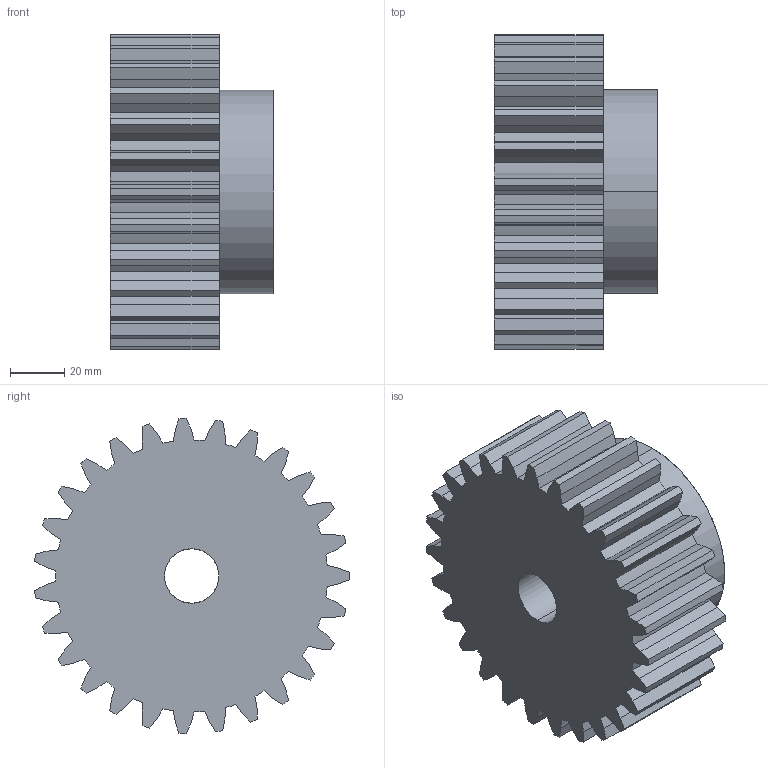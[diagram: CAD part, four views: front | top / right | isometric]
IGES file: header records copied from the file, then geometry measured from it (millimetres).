
Start section: SolidWorks IGES file using analytic representation for surfaces
Global section: file name: C:\Users\Honza\Desktop\Matis (Hotove)\Èelní ozubená kola\PM\MODUL 4\PM 31027.IGS; native system: SolidWorks 2010; preprocessor: SolidWorks 2010; author: Honza; date: 130925.164017; units: millimetre
Bounding box: 60 x 115.75 x 115.93 mm (x, y, z)
Surface area: 51465.7 mm2 (no closed solid volume)
Topology: 0 solids, 0 shells, 169 faces, 1181 edges, 1181 vertices
Faces by surface type: bspline 111, revolution 58
